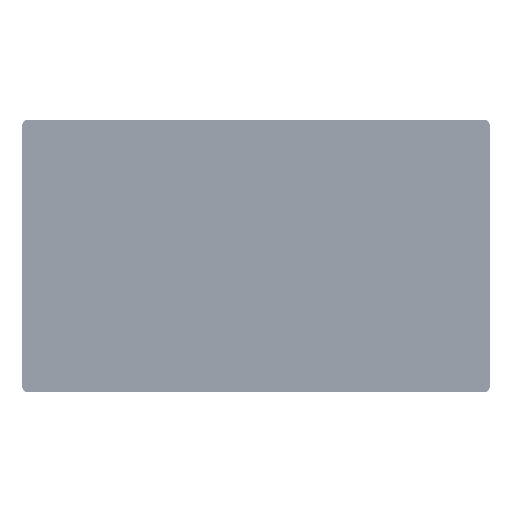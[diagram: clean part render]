
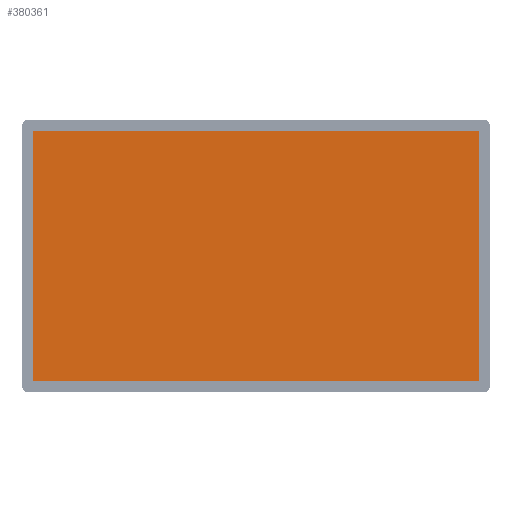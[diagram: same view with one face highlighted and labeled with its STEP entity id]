
A CAD part, top view. The second image highlights one B-rep face of the part: STEP entity #380361.
In plain terms, the highlighted planar face has unit normal (0, 0, 1).
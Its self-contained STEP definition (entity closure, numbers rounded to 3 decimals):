
#13901 = DIRECTION ( 'NONE',  ( 1., 0., 0. ) ) ;
#21229 = VECTOR ( 'NONE', #13901, 1000. ) ;
#38986 = VECTOR ( 'NONE', #852509, 1000. ) ;
#71459 = VERTEX_POINT ( 'NONE', #494793 ) ;
#167605 = CARTESIAN_POINT ( 'NONE',  ( 0., -302., 6.3 ) ) ;
#213393 = EDGE_CURVE ( 'NONE', #484967, #350535, #264511, .T. ) ;
#216270 = EDGE_LOOP ( 'NONE', ( #922039, #905763, #520832, #665207 ) ) ;
#222401 = CARTESIAN_POINT ( 'NONE',  ( -536.9, 0., 6.3 ) ) ;
#264511 = LINE ( 'NONE', #167605, #21229 ) ;
#267527 = EDGE_CURVE ( 'NONE', #71459, #484967, #468084, .T. ) ;
#306080 = FACE_OUTER_BOUND ( 'NONE', #216270, .T. ) ;
#306360 = VECTOR ( 'NONE', #473537, 1000. ) ;
#336535 = CARTESIAN_POINT ( 'NONE',  ( 536.9, 302., 6.3 ) ) ;
#350535 = VERTEX_POINT ( 'NONE', #912560 ) ;
#379906 = LINE ( 'NONE', #692453, #402548 ) ;
#380361 = ADVANCED_FACE ( 'NONE', ( #306080 ), #685545, .T. ) ;
#402548 = VECTOR ( 'NONE', #841195, 1000. ) ;
#463534 = LINE ( 'NONE', #468540, #306360 ) ;
#468084 = LINE ( 'NONE', #222401, #38986 ) ;
#468540 = CARTESIAN_POINT ( 'NONE',  ( 0., 302., 6.3 ) ) ;
#472429 = EDGE_CURVE ( 'NONE', #350535, #517669, #379906, .T. ) ;
#473537 = DIRECTION ( 'NONE',  ( -1., 0., 0. ) ) ;
#484967 = VERTEX_POINT ( 'NONE', #673302 ) ;
#494793 = CARTESIAN_POINT ( 'NONE',  ( -536.9, 302., 6.3 ) ) ;
#517669 = VERTEX_POINT ( 'NONE', #336535 ) ;
#520832 = ORIENTED_EDGE ( 'NONE', *, *, #213393, .T. ) ;
#546756 = CARTESIAN_POINT ( 'NONE',  ( 0., 0., 6.3 ) ) ;
#665207 = ORIENTED_EDGE ( 'NONE', *, *, #472429, .T. ) ;
#673302 = CARTESIAN_POINT ( 'NONE',  ( -536.9, -302., 6.3 ) ) ;
#685545 = PLANE ( 'NONE',  #841724 ) ;
#692453 = CARTESIAN_POINT ( 'NONE',  ( 536.9, 0., 6.3 ) ) ;
#841195 = DIRECTION ( 'NONE',  ( 0., 1., 0. ) ) ;
#841724 = AXIS2_PLACEMENT_3D ( 'NONE', #546756, #854452, #869535 ) ;
#852509 = DIRECTION ( 'NONE',  ( 0., -1., 0. ) ) ;
#854452 = DIRECTION ( 'NONE',  ( 0., 0., 1. ) ) ;
#869535 = DIRECTION ( 'NONE',  ( 1., 0., 0. ) ) ;
#905763 = ORIENTED_EDGE ( 'NONE', *, *, #267527, .T. ) ;
#912560 = CARTESIAN_POINT ( 'NONE',  ( 536.9, -302., 6.3 ) ) ;
#922039 = ORIENTED_EDGE ( 'NONE', *, *, #937983, .T. ) ;
#937983 = EDGE_CURVE ( 'NONE', #517669, #71459, #463534, .T. ) ;
